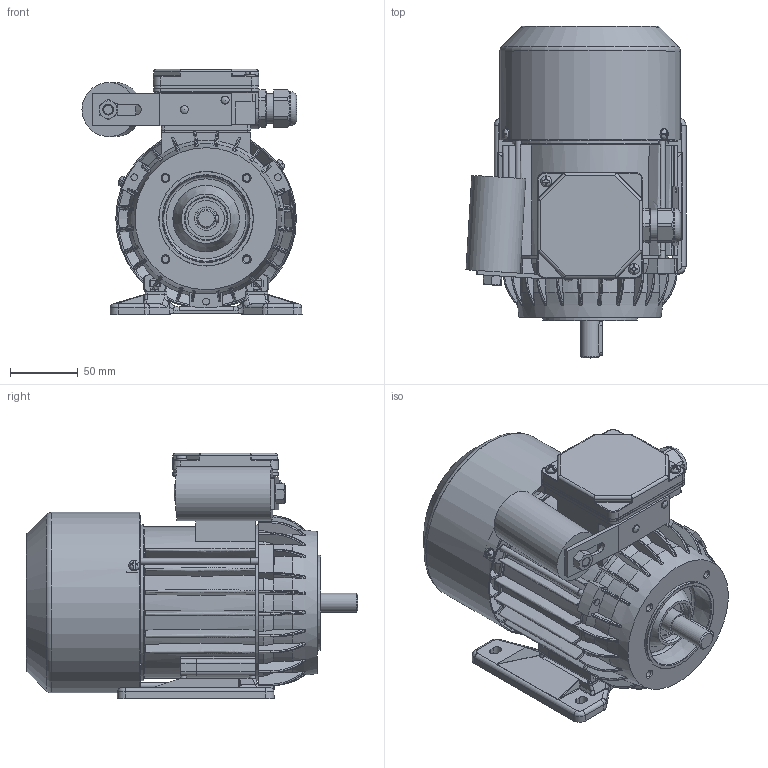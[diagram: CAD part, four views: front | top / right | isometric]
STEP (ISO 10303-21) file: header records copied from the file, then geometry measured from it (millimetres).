
FILE_DESCRIPTION( ( 'Unknown' ), '1' );
FILE_NAME( 'G:/Poczta Tk-1/STP/w.m.71/SEh71/SELh71-.B2.stp', 'Unknown', ( 'K. Szlosek' ), ( 'BESEL S.A.' ), 'PSStep 17.0.49', 'Unknown', ' ' );
FILE_SCHEMA( ( 'AUTOMOTIVE_DESIGN { 1 0 10303 214 1 1 1 1 }' ) );
Length unit declared in the file: millimetre
Products named in the file (34): Assem1; K4-2820 Uszczelka nr 2 Sh71,80; Wkręt samogwintujący M4x16; K3-6469 Tarcza łożyskowa P S(E,M)h71-B,C; Wpust A5x5x25; Wkręt samogwintujący M4x8; K2-1131 Podstawa skrzynki zaciskowej jednofazowa; Nit 4x12 po skróceniu; K4-2999 Uchwyt kondensatora; nakrętka M8; K1-1194 Kadłub z zamkami Sh71-.B; Kondensator zb 11-16uF Comar; K3-3984 Przewietrznik Sh71; K4-2320 Uszczelka nr 1 Sh71,80; K3-2975 Osłona przewietrznika Sh71-.B,C; K2-0860 Pokrywka skrzynki zaciskowej; K3-4502 wał standard Sh71-B; Nitokołek A 2x6; Łożysko 6203; Śruba ściągająca E_M5x110; Tabliczka znamionowa 32x44; Dławnica M20x1,5; K4-0898 Tulejka uszczelniająca; K1-1245 Tarcza kołnierzowa B14_2 w.m. 71; K1-0448 Łapa Sh71-.. 
Assembly tree (50 placements, depth 2):
  Assem1
    K4-2820 Uszczelka nr 2 Sh71,80
    Wkręt samogwintujący M4x16  x2
    K3-6469 Tarcza łożyskowa P S(E,M)h71-B,C
    Wpust A5x5x25
    Wkręt samogwintujący M4x8  x3
    K2-1131 Podstawa skrzynki zaciskowej jednofazowa
    Nit 4x12 po skróceniu  x2
    K4-2999 Uchwyt kondensatora
    nakrętka M8
    K1-1194 Kadłub z zamkami Sh71-.B
    Kondensator zb 11-16uF Comar
    K3-3984 Przewietrznik Sh71
    K4-2320 Uszczelka nr 1 Sh71,80
    K3-2975 Osłona przewietrznika Sh71-.B,C
    K2-0860 Pokrywka skrzynki zaciskowej
    K3-4502 wał standard Sh71-B
    Nitokołek A 2x6  x2
    Łożysko 6203  x2
    Łożysko 6203  x2
    Łożysko 6203  x2
    Łożysko 6203  x2
    Łożysko 6203  x2
    Łożysko 6203  x2
    Łożysko 6203  x2
    Łożysko 6203  x2
    Łożysko 6203  x2
    Łożysko 6203  x2
    Śruba ściągająca E_M5x110  x3
    Tabliczka znamionowa 32x44
    Dławnica M20x1,5
    K4-0898 Tulejka uszczelniająca
    K1-1245 Tarcza kołnierzowa B14_2 w.m. 71
    K1-0448 Łapa Sh71-.. 
Bounding box: 162.77 x 245.5 x 181.5 mm (x, y, z)
Volume: 782391.6 mm3; surface area: 478224.7 mm2
Topology: 50 solids, 66 shells, 2823 faces, 7672 edges, 4921 vertices
Faces by surface type: plane 1114, cylinder 809, bspline 447, cone 209, torus 200, sphere 44
Full cylindrical faces by diameter (mm): 2 x2, 2.4 x2, 3 x1, 3.7 x7, 3.8 x4, 4 x7, 4.3 x2, 4.5 x3, 4.6 x3, 4.8 x4, 4.917 x4, 5 x10, 5.5 x3, 5.8 x4, 6 x2, 6.5 x1, 6.647 x1, 7 x1, 8 x10, 10 x2, 14 x1, 15.9 x1, 16.1 x1, 16.5 x1, 17 x4, 17.4 x2, 18.376 x1, 18.38 x1, 20 x1, 22 x2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
Entity records: 171433 total; most frequent: CARTESIAN_POINT 86814, ORIENTED_EDGE 13784, DIRECTION 12087, EDGE_CURVE 6892, AXIS2_PLACEMENT_3D 4621, VERTEX_POINT 4578, EDGE_LOOP 3104, LINE 2845
